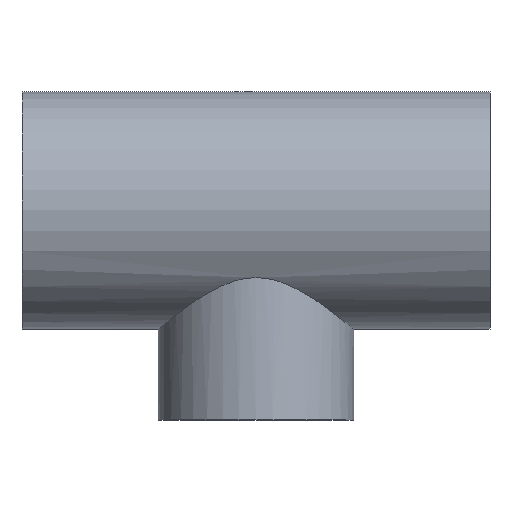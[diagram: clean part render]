
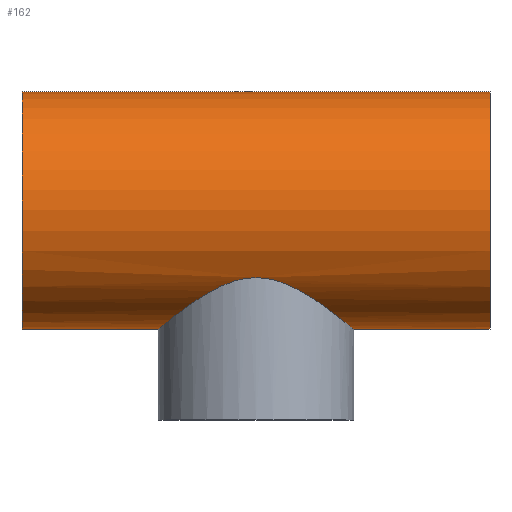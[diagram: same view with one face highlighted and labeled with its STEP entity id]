
A CAD part, top view. The second image highlights one B-rep face of the part: STEP entity #162.
In plain terms, the highlighted cylindrical face has radius 17 mm (diameter 34 mm), a full revolution.
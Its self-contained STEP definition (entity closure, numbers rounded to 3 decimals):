
#16=B_SPLINE_CURVE_WITH_KNOTS('',3,(#320,#321,#322,#323,#324,#325,#326,
#327,#328,#329,#330,#331,#332,#333,#334,#335,#336,#337,#338,#339,#340,#341,
#342,#343,#344,#345,#346,#347,#348,#349,#350,#351,#352,#353,#354,#355,#356,
#357,#358,#359,#360,#361,#362,#363,#364,#365,#366,#367,#368,#369),
 .UNSPECIFIED.,.T.,.F.,(4,2,2,2,2,2,2,2,2,2,2,2,2,2,2,2,2,2,2,2,2,2,2,2,
4),(0.,0.29,0.58,1.161,1.719,
1.998,2.277,2.557,2.836,3.394,
3.975,4.265,4.555,4.845,5.135,
5.716,6.274,6.553,6.832,7.112,
7.391,7.949,8.53,8.82,9.11),
 .UNSPECIFIED.);
#32=FACE_BOUND('',#69,.T.);
#33=FACE_BOUND('',#70,.T.);
#46=FACE_OUTER_BOUND('',#68,.T.);
#68=EDGE_LOOP('',(#136));
#69=EDGE_LOOP('',(#137));
#70=EDGE_LOOP('',(#138));
#88=CIRCLE('',#187,17.);
#89=CIRCLE('',#188,17.);
#101=VERTEX_POINT('',#317);
#102=VERTEX_POINT('',#319);
#103=VERTEX_POINT('',#370);
#115=EDGE_CURVE('',#101,#101,#88,.T.);
#116=EDGE_CURVE('',#102,#102,#16,.T.);
#117=EDGE_CURVE('',#103,#103,#89,.T.);
#136=ORIENTED_EDGE('',*,*,#115,.F.);
#137=ORIENTED_EDGE('',*,*,#116,.T.);
#138=ORIENTED_EDGE('',*,*,#117,.F.);
#152=CYLINDRICAL_SURFACE('',#186,17.);
#162=ADVANCED_FACE('',(#46,#32,#33),#152,.T.);
#186=AXIS2_PLACEMENT_3D('',#316,#230,#231);
#187=AXIS2_PLACEMENT_3D('',#318,#232,#233);
#188=AXIS2_PLACEMENT_3D('',#371,#234,#235);
#230=DIRECTION('center_axis',(1.,0.,0.));
#231=DIRECTION('ref_axis',(0.,-1.,0.));
#232=DIRECTION('center_axis',(-1.,0.,0.));
#233=DIRECTION('ref_axis',(0.,-1.,0.));
#234=DIRECTION('center_axis',(1.,0.,0.));
#235=DIRECTION('ref_axis',(0.,-1.,0.));
#316=CARTESIAN_POINT('Origin',(0.,0.,0.));
#317=CARTESIAN_POINT('',(-33.5,17.,0.));
#318=CARTESIAN_POINT('Origin',(-33.5,0.,0.));
#319=CARTESIAN_POINT('',(0.,-9.644,14.));
#320=CARTESIAN_POINT('Ctrl Pts',(0.,-9.644,
14.));
#321=CARTESIAN_POINT('Ctrl Pts',(0.967,-9.644,14.));
#322=CARTESIAN_POINT('Ctrl Pts',(1.918,-9.793,13.9));
#323=CARTESIAN_POINT('Ctrl Pts',(3.755,-10.311,13.52));
#324=CARTESIAN_POINT('Ctrl Pts',(4.642,-10.678,13.24));
#325=CARTESIAN_POINT('Ctrl Pts',(7.168,-11.926,12.164));
#326=CARTESIAN_POINT('Ctrl Pts',(8.679,-12.946,11.12));
#327=CARTESIAN_POINT('Ctrl Pts',(11.074,-14.661,8.725));
#328=CARTESIAN_POINT('Ctrl Pts',(12.142,-15.5,7.214));
#329=CARTESIAN_POINT('Ctrl Pts',(13.241,-16.379,4.642));
#330=CARTESIAN_POINT('Ctrl Pts',(13.526,-16.612,3.734));
#331=CARTESIAN_POINT('Ctrl Pts',(13.906,-16.922,1.878));
#332=CARTESIAN_POINT('Ctrl Pts',(14.,-17.,0.931));
#333=CARTESIAN_POINT('Ctrl Pts',(14.,-17.,-0.931));
#334=CARTESIAN_POINT('Ctrl Pts',(13.906,-16.922,-1.878));
#335=CARTESIAN_POINT('Ctrl Pts',(13.526,-16.612,-3.734));
#336=CARTESIAN_POINT('Ctrl Pts',(13.241,-16.379,-4.642));
#337=CARTESIAN_POINT('Ctrl Pts',(12.142,-15.5,-7.214));
#338=CARTESIAN_POINT('Ctrl Pts',(11.074,-14.661,-8.725));
#339=CARTESIAN_POINT('Ctrl Pts',(8.679,-12.946,-11.12));
#340=CARTESIAN_POINT('Ctrl Pts',(7.168,-11.926,-12.164));
#341=CARTESIAN_POINT('Ctrl Pts',(4.642,-10.678,-13.24));
#342=CARTESIAN_POINT('Ctrl Pts',(3.755,-10.311,-13.52));
#343=CARTESIAN_POINT('Ctrl Pts',(1.918,-9.793,-13.9));
#344=CARTESIAN_POINT('Ctrl Pts',(0.967,-9.644,-14.));
#345=CARTESIAN_POINT('Ctrl Pts',(-0.967,-9.644,-14.));
#346=CARTESIAN_POINT('Ctrl Pts',(-1.918,-9.793,-13.9));
#347=CARTESIAN_POINT('Ctrl Pts',(-3.755,-10.311,-13.52));
#348=CARTESIAN_POINT('Ctrl Pts',(-4.642,-10.678,-13.24));
#349=CARTESIAN_POINT('Ctrl Pts',(-7.168,-11.926,-12.164));
#350=CARTESIAN_POINT('Ctrl Pts',(-8.679,-12.946,-11.12));
#351=CARTESIAN_POINT('Ctrl Pts',(-11.074,-14.661,-8.725));
#352=CARTESIAN_POINT('Ctrl Pts',(-12.142,-15.5,-7.214));
#353=CARTESIAN_POINT('Ctrl Pts',(-13.241,-16.379,-4.642));
#354=CARTESIAN_POINT('Ctrl Pts',(-13.526,-16.612,-3.734));
#355=CARTESIAN_POINT('Ctrl Pts',(-13.906,-16.922,-1.878));
#356=CARTESIAN_POINT('Ctrl Pts',(-14.,-17.,-0.931));
#357=CARTESIAN_POINT('Ctrl Pts',(-14.,-17.,0.931));
#358=CARTESIAN_POINT('Ctrl Pts',(-13.906,-16.922,1.878));
#359=CARTESIAN_POINT('Ctrl Pts',(-13.526,-16.612,3.734));
#360=CARTESIAN_POINT('Ctrl Pts',(-13.241,-16.379,4.642));
#361=CARTESIAN_POINT('Ctrl Pts',(-12.142,-15.5,7.214));
#362=CARTESIAN_POINT('Ctrl Pts',(-11.074,-14.661,8.725));
#363=CARTESIAN_POINT('Ctrl Pts',(-8.679,-12.946,11.12));
#364=CARTESIAN_POINT('Ctrl Pts',(-7.168,-11.926,12.164));
#365=CARTESIAN_POINT('Ctrl Pts',(-4.642,-10.678,13.24));
#366=CARTESIAN_POINT('Ctrl Pts',(-3.755,-10.311,13.52));
#367=CARTESIAN_POINT('Ctrl Pts',(-1.918,-9.793,13.9));
#368=CARTESIAN_POINT('Ctrl Pts',(-0.967,-9.644,14.));
#369=CARTESIAN_POINT('Ctrl Pts',(0.,-9.644,
14.));
#370=CARTESIAN_POINT('',(33.5,17.,0.));
#371=CARTESIAN_POINT('Origin',(33.5,0.,0.));
